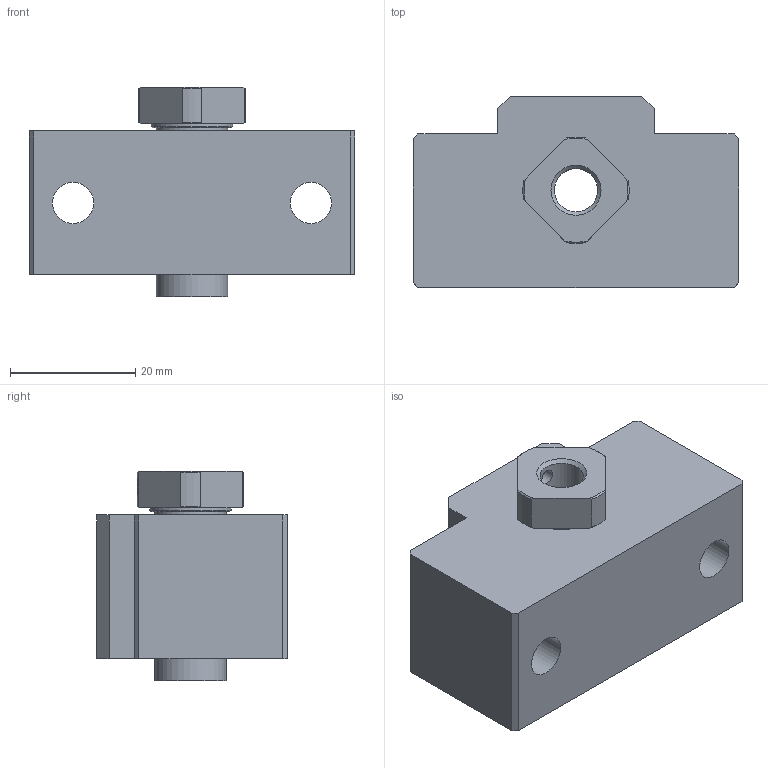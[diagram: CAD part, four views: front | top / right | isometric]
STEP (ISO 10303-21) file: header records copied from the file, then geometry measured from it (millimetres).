
FILE_DESCRIPTION(/* description */ ('STEP AP214'),/* implementation_level */ '2;1');
FILE_NAME(/* name */ 'EK8L______CAD_NO_Yes',/* time_stamp */ '2026-09-17T12:55:05+02:00',/* author */ ('License CC BY-ND 4.0'),/* organization */ ('CADENAS'),/* preprocessor_version */ 'ST-DEVELOPER v20',/* originating_system */ 'PARTsolutions',/* authorisation */ ' ');
FILE_SCHEMA (('AUTOMOTIVE_DESIGN {1 0 10303 214 3 1 1}'));
Length unit declared in the file: millimetre
Products named in the file (4): EK8L______CAD_NO_Yes; EK 8L; EK 8Lcollar; RN 8
Assembly tree (4 placements, depth 2):
  EK8L______CAD_NO_Yes
    EK 8L
    EK 8Lcollar  x2
    RN 8
Bounding box: 52 x 30.5 x 33.5 mm (x, y, z)
Volume: 29477.9 mm3; surface area: 10254.7 mm2
Topology: 4 solids, 4 shells, 75 faces, 169 edges, 112 vertices
Faces by surface type: plane 42, cylinder 21, cone 12
Full cylindrical faces by diameter (mm): 2.459 x1, 3 x1, 6.6 x2, 6.917 x1, 8 x3, 11 x2, 11.5 x4, 13 x1, 19 x1, 19.1 x1
Entity records: 2057 total; most frequent: CARTESIAN_POINT 392, DIRECTION 324, ORIENTED_EDGE 284, EDGE_CURVE 142, AXIS2_PLACEMENT_3D 124, EDGE_LOOP 110, FACE_BOUND 110, VERTEX_POINT 106
